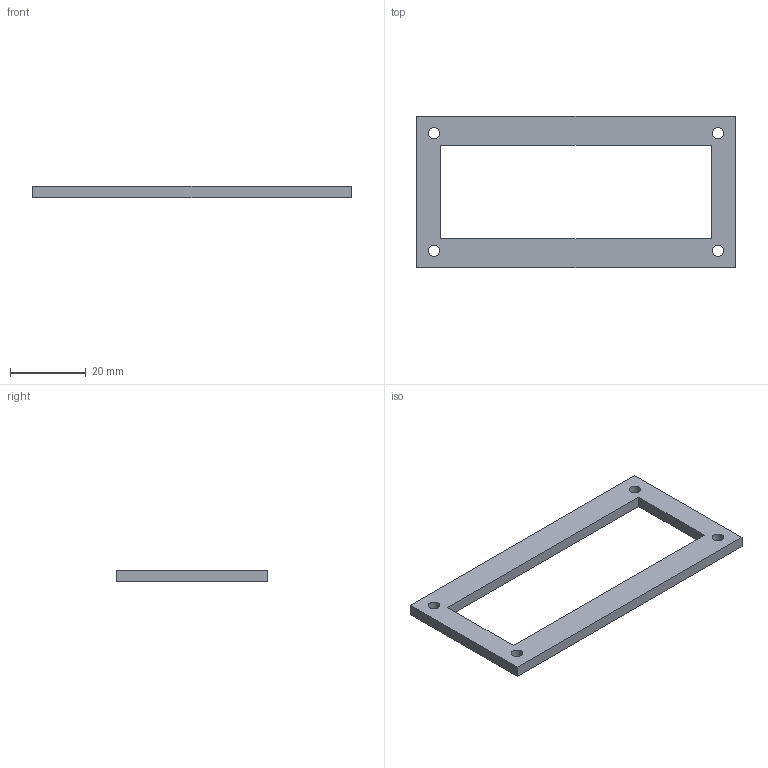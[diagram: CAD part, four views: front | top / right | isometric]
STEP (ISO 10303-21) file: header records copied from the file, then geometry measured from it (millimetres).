
FILE_DESCRIPTION(('Open CASCADE Model'),'2;1');
FILE_NAME('Open CASCADE Shape Model','2026-09-13T21:36:11',('Author'),( 'Open CASCADE'),'Open CASCADE STEP processor 7.9','Open CASCADE 7.9' ,'Unknown');
FILE_SCHEMA(('AUTOMOTIVE_DESIGN { 1 0 10303 214 1 1 1 1 }'));
Length unit declared in the file: millimetre
Products named in the file (1): Open CASCADE STEP translator 7.9 9
Bounding box: 84 x 40 x 3 mm (x, y, z)
Volume: 4725.9 mm3; surface area: 4583.7 mm2
Topology: 1 solids, 1 shells, 14 faces, 36 edges, 24 vertices
Faces by surface type: plane 10, cylinder 4
Full cylindrical faces by diameter (mm): 3 x4
Entity records: 910 total; most frequent: CARTESIAN_POINT 163, DIRECTION 130, LINE 76, VECTOR 76, ORIENTED_EDGE 72, PCURVE 72, DEFINITIONAL_REPRESENTATION 72, EDGE_CURVE 36
